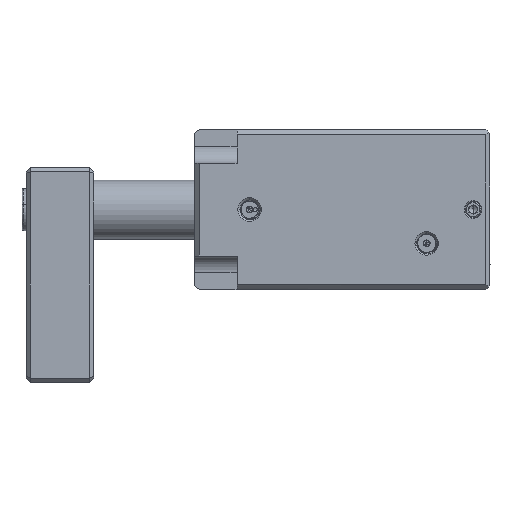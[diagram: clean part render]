
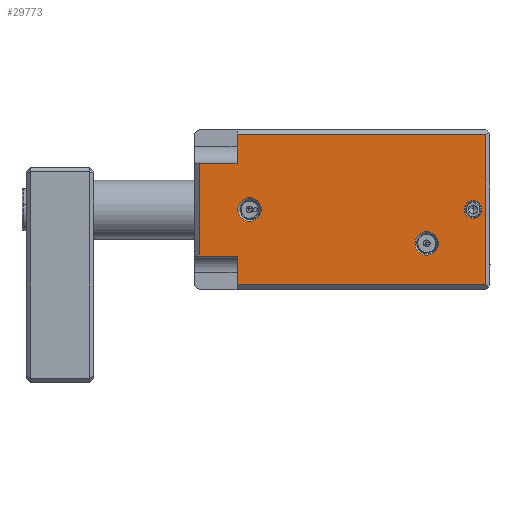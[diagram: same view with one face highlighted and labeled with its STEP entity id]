
A CAD part, left-side view. The second image highlights one B-rep face of the part: STEP entity #29773.
In plain terms, the highlighted planar face has unit normal (-1, 0, 0).
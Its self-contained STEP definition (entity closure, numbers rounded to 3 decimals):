
#2810 = AXIS2_PLACEMENT_3D ( 'NONE', #9583, #9584, #9585 ) ;
#2819 = AXIS2_PLACEMENT_3D ( 'NONE', #9617, #9618, #9619 ) ;
#7367 = CIRCLE ( 'NONE', #2810, 2.8 ) ;
#7371 = CIRCLE ( 'NONE', #2819, 2.8 ) ;
#7454 = CIRCLE ( 'NONE', #10184, 2.1 ) ;
#9583 = CARTESIAN_POINT ( 'NONE',  ( -14336.171, 1932.563, 0. ) ) ;
#9584 = DIRECTION ( 'NONE',  ( 1., 0., 0. ) ) ;
#9585 = DIRECTION ( 'NONE',  ( 0., 0., -1. ) ) ;
#9617 = CARTESIAN_POINT ( 'NONE',  ( -14336.171, 1890.563, -8. ) ) ;
#9618 = DIRECTION ( 'NONE',  ( 1., 0., 0. ) ) ;
#9619 = DIRECTION ( 'NONE',  ( 0., 0., -1. ) ) ;
#10184 = AXIS2_PLACEMENT_3D ( 'NONE', #11367, #11369, #11371 ) ;
#10617 = VECTOR ( 'NONE', #13689, 1000. ) ;
#10622 = VECTOR ( 'NONE', #13706, 1000. ) ;
#10683 = AXIS2_PLACEMENT_3D ( 'NONE', #13985, #13986, #13987 ) ;
#10686 = AXIS2_PLACEMENT_3D ( 'NONE', #13982, #13983, #13984 ) ;
#10697 = AXIS2_PLACEMENT_3D ( 'NONE', #13952, #13980, #13981 ) ;
#10706 = VECTOR ( 'NONE', #13979, 1000. ) ;
#10709 = VECTOR ( 'NONE', #13991, 1000. ) ;
#10710 = VECTOR ( 'NONE', #13994, 1000. ) ;
#10711 = VECTOR ( 'NONE', #13997, 1000. ) ;
#10712 = VECTOR ( 'NONE', #14000, 1000. ) ;
#10714 = VECTOR ( 'NONE', #14003, 1000. ) ;
#10856 = FACE_BOUND ( 'NONE', #27931, .T. ) ;
#10859 = AXIS2_PLACEMENT_3D ( 'NONE', #14253, #14254, #14255 ) ;
#10860 = FACE_BOUND ( 'NONE', #27932, .T. ) ;
#10863 = FACE_BOUND ( 'NONE', #27933, .T. ) ;
#10865 = FACE_OUTER_BOUND ( 'NONE', #27934, .T. ) ;
#11367 = CARTESIAN_POINT ( 'NONE',  ( -14336.171, 1879.563, 0. ) ) ;
#11369 = DIRECTION ( 'NONE',  ( 1., 0., 0. ) ) ;
#11371 = DIRECTION ( 'NONE',  ( 0., 0., -1. ) ) ;
#12862 = CIRCLE ( 'NONE', #10697, 2.8 ) ;
#12863 = CIRCLE ( 'NONE', #10686, 2.8 ) ;
#12864 = CIRCLE ( 'NONE', #10683, 2.1 ) ;
#13026 = CARTESIAN_POINT ( 'NONE',  ( -14336.171, 1876.563, 17.748 ) ) ;
#13030 = CARTESIAN_POINT ( 'NONE',  ( -14336.171, 1935.563, 17.748 ) ) ;
#13032 = CARTESIAN_POINT ( 'NONE',  ( -14336.171, 1876.563, -17.748 ) ) ;
#13033 = CARTESIAN_POINT ( 'NONE',  ( -14336.171, 1935.563, -17.748 ) ) ;
#13083 = CARTESIAN_POINT ( 'NONE',  ( -14336.171, 1935.563, 11. ) ) ;
#13084 = CARTESIAN_POINT ( 'NONE',  ( -14336.171, 1944.563, 11. ) ) ;
#13085 = CARTESIAN_POINT ( 'NONE',  ( -14336.171, 1944.563, -11. ) ) ;
#13086 = CARTESIAN_POINT ( 'NONE',  ( -14336.171, 1935.563, -11. ) ) ;
#13687 = LINE ( 'NONE', #13688, #10617 ) ;
#13688 = CARTESIAN_POINT ( 'NONE',  ( -14336.171, 1875.563, 17.748 ) ) ;
#13689 = DIRECTION ( 'NONE',  ( 0., 1., 0. ) ) ;
#13704 = LINE ( 'NONE', #13705, #10622 ) ;
#13705 = CARTESIAN_POINT ( 'NONE',  ( -14336.171, 1875.563, -17.748 ) ) ;
#13706 = DIRECTION ( 'NONE',  ( 0., 1., 0. ) ) ;
#13952 = CARTESIAN_POINT ( 'NONE',  ( -14336.171, 1932.563, 0. ) ) ;
#13977 = LINE ( 'NONE', #13978, #10706 ) ;
#13978 = CARTESIAN_POINT ( 'NONE',  ( -14336.171, 1944.563, 0. ) ) ;
#13979 = DIRECTION ( 'NONE',  ( 0., 0., -1. ) ) ;
#13980 = DIRECTION ( 'NONE',  ( 1., 0., 0. ) ) ;
#13981 = DIRECTION ( 'NONE',  ( 0., 0., -1. ) ) ;
#13982 = CARTESIAN_POINT ( 'NONE',  ( -14336.171, 1890.563, -8. ) ) ;
#13983 = DIRECTION ( 'NONE',  ( 1., 0., 0. ) ) ;
#13984 = DIRECTION ( 'NONE',  ( 0., 0., -1. ) ) ;
#13985 = CARTESIAN_POINT ( 'NONE',  ( -14336.171, 1879.563, 0. ) ) ;
#13986 = DIRECTION ( 'NONE',  ( 1., 0., 0. ) ) ;
#13987 = DIRECTION ( 'NONE',  ( 0., 0., -1. ) ) ;
#13989 = LINE ( 'NONE', #13990, #10709 ) ;
#13990 = CARTESIAN_POINT ( 'NONE',  ( -14336.171, 1875.563, 11. ) ) ;
#13991 = DIRECTION ( 'NONE',  ( 0., 1., 0. ) ) ;
#13992 = LINE ( 'NONE', #13993, #10710 ) ;
#13993 = CARTESIAN_POINT ( 'NONE',  ( -14336.171, 1875.563, -11. ) ) ;
#13994 = DIRECTION ( 'NONE',  ( 0., -1., 0. ) ) ;
#13995 = LINE ( 'NONE', #13996, #10711 ) ;
#13996 = CARTESIAN_POINT ( 'NONE',  ( -14336.171, 1935.563, 0. ) ) ;
#13997 = DIRECTION ( 'NONE',  ( 0., 0., 1. ) ) ;
#13998 = LINE ( 'NONE', #13999, #10712 ) ;
#13999 = CARTESIAN_POINT ( 'NONE',  ( -14336.171, 1876.563, 17.748 ) ) ;
#14000 = DIRECTION ( 'NONE',  ( 0., 0., 1. ) ) ;
#14001 = LINE ( 'NONE', #14002, #10714 ) ;
#14002 = CARTESIAN_POINT ( 'NONE',  ( -14336.171, 1935.563, 0. ) ) ;
#14003 = DIRECTION ( 'NONE',  ( 0., 0., 1. ) ) ;
#14252 = PLANE ( 'NONE',  #10859 ) ;
#14253 = CARTESIAN_POINT ( 'NONE',  ( -14336.171, 1875.563, 0. ) ) ;
#14254 = DIRECTION ( 'NONE',  ( 1., 0., 0. ) ) ;
#14255 = DIRECTION ( 'NONE',  ( 0., 0., -1. ) ) ;
#25150 = VERTEX_POINT ( 'NONE', #43173 ) ;
#25151 = VERTEX_POINT ( 'NONE', #43174 ) ;
#25157 = VERTEX_POINT ( 'NONE', #43180 ) ;
#25158 = VERTEX_POINT ( 'NONE', #43181 ) ;
#25195 = VERTEX_POINT ( 'NONE', #43218 ) ;
#25196 = VERTEX_POINT ( 'NONE', #43219 ) ;
#27444 = EDGE_CURVE ( 'NONE', #25151, #25150, #7367, .T. ) ;
#27451 = EDGE_CURVE ( 'NONE', #25158, #25157, #7371, .T. ) ;
#27504 = EDGE_CURVE ( 'NONE', #25196, #25195, #7454, .T. ) ;
#27931 = EDGE_LOOP ( 'NONE', ( #28935, #28936 ) ) ;
#27932 = EDGE_LOOP ( 'NONE', ( #28938, #28937 ) ) ;
#27933 = EDGE_LOOP ( 'NONE', ( #28940, #28939 ) ) ;
#27934 = EDGE_LOOP ( 'NONE', ( #29168, #29170, #29169, #29171, #29172, #29173, #29174, #29175 ) ) ;
#28255 = VERTEX_POINT ( 'NONE', #13026 ) ;
#28259 = VERTEX_POINT ( 'NONE', #13030 ) ;
#28261 = VERTEX_POINT ( 'NONE', #13032 ) ;
#28262 = VERTEX_POINT ( 'NONE', #13033 ) ;
#28312 = VERTEX_POINT ( 'NONE', #13083 ) ;
#28313 = VERTEX_POINT ( 'NONE', #13084 ) ;
#28314 = VERTEX_POINT ( 'NONE', #13085 ) ;
#28315 = VERTEX_POINT ( 'NONE', #13086 ) ;
#28935 = ORIENTED_EDGE ( 'NONE', *, *, #27444, .T. ) ;
#28936 = ORIENTED_EDGE ( 'NONE', *, *, #29105, .T. ) ;
#28937 = ORIENTED_EDGE ( 'NONE', *, *, #29106, .T. ) ;
#28938 = ORIENTED_EDGE ( 'NONE', *, *, #27451, .T. ) ;
#28939 = ORIENTED_EDGE ( 'NONE', *, *, #29107, .T. ) ;
#28940 = ORIENTED_EDGE ( 'NONE', *, *, #27504, .T. ) ;
#29011 = EDGE_CURVE ( 'NONE', #28255, #28259, #13687, .T. ) ;
#29016 = EDGE_CURVE ( 'NONE', #28261, #28262, #13704, .T. ) ;
#29104 = EDGE_CURVE ( 'NONE', #28313, #28314, #13977, .T. ) ;
#29105 = EDGE_CURVE ( 'NONE', #25150, #25151, #12862, .T. ) ;
#29106 = EDGE_CURVE ( 'NONE', #25157, #25158, #12863, .T. ) ;
#29107 = EDGE_CURVE ( 'NONE', #25195, #25196, #12864, .T. ) ;
#29108 = EDGE_CURVE ( 'NONE', #28312, #28313, #13989, .T. ) ;
#29109 = EDGE_CURVE ( 'NONE', #28314, #28315, #13992, .T. ) ;
#29110 = EDGE_CURVE ( 'NONE', #28262, #28315, #13995, .T. ) ;
#29111 = EDGE_CURVE ( 'NONE', #28261, #28255, #13998, .T. ) ;
#29112 = EDGE_CURVE ( 'NONE', #28312, #28259, #14001, .T. ) ;
#29168 = ORIENTED_EDGE ( 'NONE', *, *, #29108, .T. ) ;
#29169 = ORIENTED_EDGE ( 'NONE', *, *, #29109, .T. ) ;
#29170 = ORIENTED_EDGE ( 'NONE', *, *, #29104, .T. ) ;
#29171 = ORIENTED_EDGE ( 'NONE', *, *, #29110, .F. ) ;
#29172 = ORIENTED_EDGE ( 'NONE', *, *, #29016, .F. ) ;
#29173 = ORIENTED_EDGE ( 'NONE', *, *, #29111, .T. ) ;
#29174 = ORIENTED_EDGE ( 'NONE', *, *, #29011, .T. ) ;
#29175 = ORIENTED_EDGE ( 'NONE', *, *, #29112, .F. ) ;
#29773 = ADVANCED_FACE ( 'NONE', ( #10856, #10860, #10863, #10865 ), #14252, .F. ) ;
#43173 = CARTESIAN_POINT ( 'NONE',  ( -14336.171, 1932.563, -2.8 ) ) ;
#43174 = CARTESIAN_POINT ( 'NONE',  ( -14336.171, 1932.563, 2.8 ) ) ;
#43180 = CARTESIAN_POINT ( 'NONE',  ( -14336.171, 1890.563, -10.8 ) ) ;
#43181 = CARTESIAN_POINT ( 'NONE',  ( -14336.171, 1890.563, -5.2 ) ) ;
#43218 = CARTESIAN_POINT ( 'NONE',  ( -14336.171, 1879.563, -2.1 ) ) ;
#43219 = CARTESIAN_POINT ( 'NONE',  ( -14336.171, 1879.563, 2.1 ) ) ;
